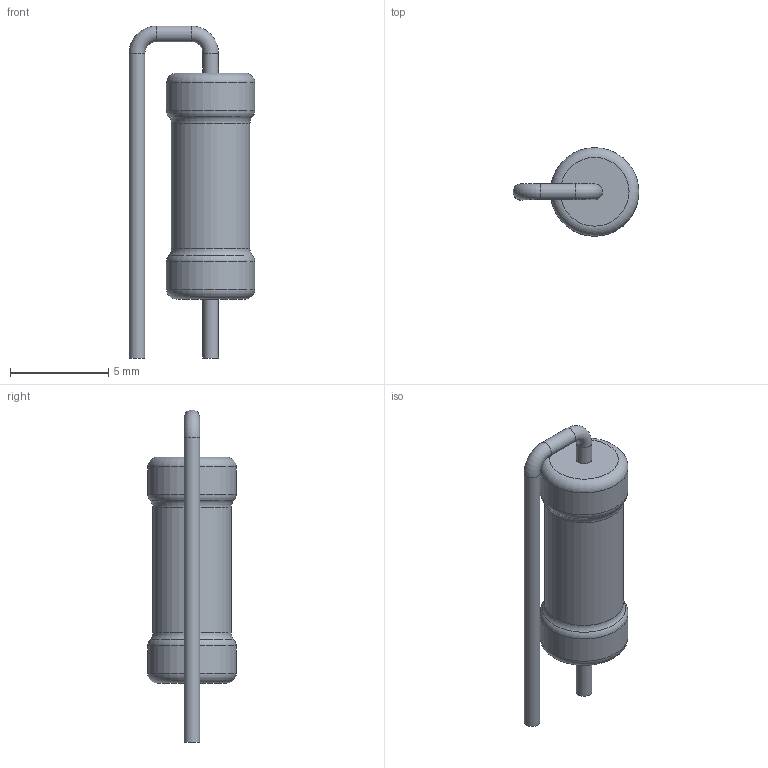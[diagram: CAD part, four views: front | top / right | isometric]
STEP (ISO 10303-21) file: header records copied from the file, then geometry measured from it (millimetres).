
FILE_DESCRIPTION(('STEP AP203'), '1');
FILE_NAME('栖闉罻', '', ('UNSPECIFIED'), ('UNSPECIFIED'), 'ASCON STEP Converter 1.6', 'ASCON Math Kernel', '');
FILE_SCHEMA(('CONFIG_CONTROL_DESIGN'));
Length unit declared in the file: millimetre
Assembly tree (1 placements, depth 2):
  (unnamed)
    (unnamed)
Bounding box: 6.4 x 4.5 x 16.9 mm (x, y, z)
Volume: 170.1 mm3; surface area: 239.9 mm2
Topology: 1 solids, 1 shells, 19 faces, 33 edges, 18 vertices
Faces by surface type: torus 8, cylinder 7, plane 4
Full cylindrical faces by diameter (mm): 0.8 x4, 4 x1, 4.5 x2
Entity records: 620 total; most frequent: DIRECTION 78, CARTESIAN_POINT 57, AXIS2_PLACEMENT_3D 39, EDGE_LOOP 36, ORIENTED_EDGE 36, FACE_OUTER_BOUND 30, COLOUR_RGB 20, FILL_AREA_STYLE_COLOUR 20
